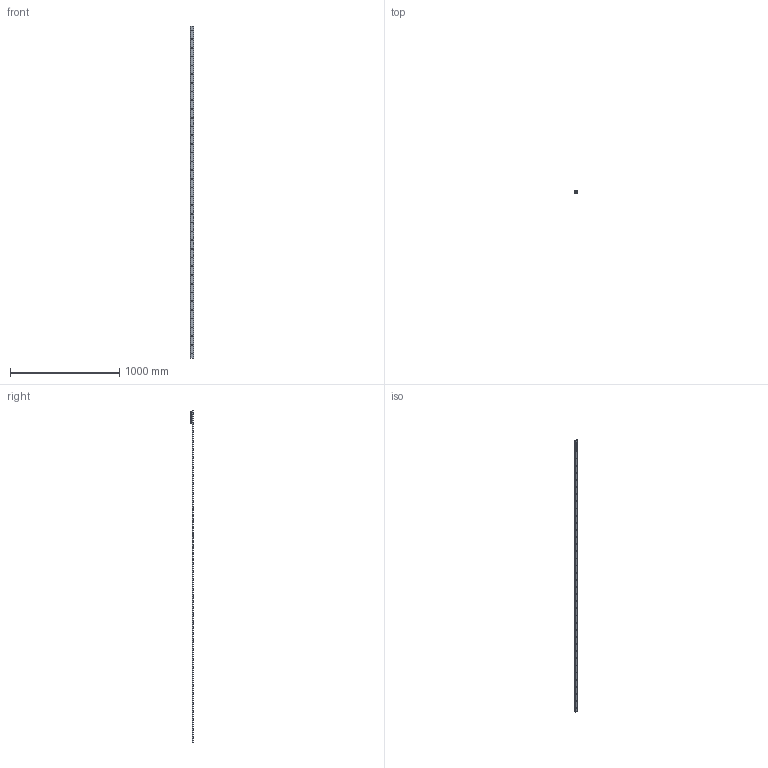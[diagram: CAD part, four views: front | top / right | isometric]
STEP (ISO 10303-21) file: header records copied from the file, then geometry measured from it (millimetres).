
FILE_DESCRIPTION( ( 'STEP AP214' ), '1' );
FILE_NAME( 'p:/temp/worker_21/temp/exporttempdir_4932_339_J4VSX/format_2/TGV-03040_1_RV28G-3.stp', '2020-11-20T16:43:21', ( 'License CC BY-ND 4.0' ), ( 'CADENAS' ), ' ', 'PARTsolutions', ' ' );
FILE_SCHEMA( ( 'AUTOMOTIVE_DESIGN { 1 0 10303 214 1 1 1 1 }' ) );
Length unit declared in the file: millimetre
Products named in the file (6): TGV-03040/1/RV28G-3; _TGV28-3040-(3-1); _RV28G-3-slider; _RGNV28R; _RGAV28R; _WR28G-01
Assembly tree (7 placements, depth 2):
  TGV-03040/1/RV28G-3
    _TGV28-3040-(3-1)
    _RV28G-3-slider
    _RGNV28R  x2
    _RGAV28R
    _WR28G-01  x2
Bounding box: 28 x 24 x 3040 mm (x, y, z)
Volume: 475403.1 mm3; surface area: 305868.2 mm2
Topology: 7 solids, 7 shells, 1088 faces, 2835 edges, 1843 vertices
Faces by surface type: plane 657, cylinder 318, cone 78, bspline 26, torus 9
Full cylindrical faces by diameter (mm): 1.27 x4, 2 x2, 2.5 x6, 4 x4, 4.134 x4, 4.2 x3, 5 x3, 5.5 x3, 5.75 x38, 7 x5, 7.5 x1, 8 x6, 10.8 x3, 17 x3, 20.75 x6
Entity records: 26711 total; most frequent: CARTESIAN_POINT 4179, DIRECTION 3580, ORIENTED_EDGE 3222, EDGE_CURVE 1611, AXIS2_PLACEMENT_3D 1395, VERTEX_POINT 1143, EDGE_LOOP 1019, FACE_OUTER_BOUND 795
